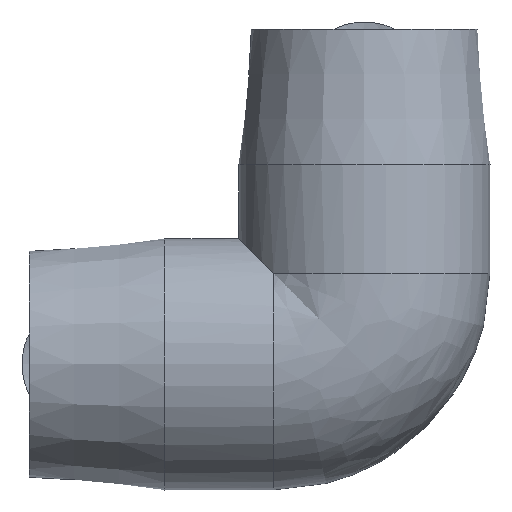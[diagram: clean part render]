
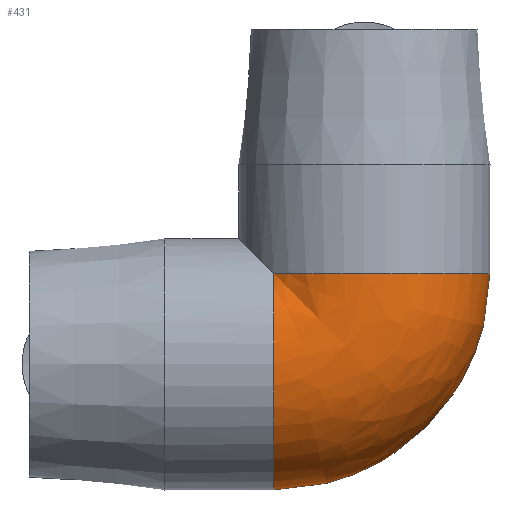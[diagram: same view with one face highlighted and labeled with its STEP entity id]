
A CAD part, front view. The second image highlights one B-rep face of the part: STEP entity #431.
In plain terms, the highlighted free-form (B-spline) face has degree [2, 2] with [9, 3] control points.
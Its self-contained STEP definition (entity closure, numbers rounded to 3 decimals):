
#33=(
BOUNDED_SURFACE()
B_SPLINE_SURFACE(2,2,((#724,#725,#726),(#727,#728,#729),(#730,#731,#732),
(#733,#734,#735),(#736,#737,#738),(#739,#740,#741),(#742,#743,#744),(#745,
#746,#747),(#748,#749,#750)),.UNSPECIFIED.,.F.,.F.,.F.)
B_SPLINE_SURFACE_WITH_KNOTS((3,2,2,2,3),(3,3),(-2.378,-1.189,
0.,1.189,2.378),(0.,1.571),
 .UNSPECIFIED.)
GEOMETRIC_REPRESENTATION_ITEM()
RATIONAL_B_SPLINE_SURFACE(((1.,0.707,1.),(0.828,
0.586,0.828),(1.,0.707,1.),(0.828,
0.586,0.828),(1.,0.707,1.),(0.828,
0.586,0.828),(1.,0.707,1.),(0.828,
0.586,0.828),(1.,0.707,1.)))
REPRESENTATION_ITEM('')
SURFACE()
);
#92=FACE_OUTER_BOUND('',#126,.T.);
#126=EDGE_LOOP('',(#307,#308,#309,#310));
#168=CIRCLE('',#494,18.);
#169=CIRCLE('',#495,18.);
#170=CIRCLE('',#496,18.);
#171=CIRCLE('',#497,18.);
#203=VERTEX_POINT('',#751);
#204=VERTEX_POINT('',#752);
#205=VERTEX_POINT('',#754);
#206=VERTEX_POINT('',#756);
#243=EDGE_CURVE('',#203,#204,#168,.T.);
#244=EDGE_CURVE('',#204,#205,#169,.T.);
#245=EDGE_CURVE('',#205,#206,#170,.T.);
#246=EDGE_CURVE('',#206,#203,#171,.T.);
#307=ORIENTED_EDGE('',*,*,#243,.T.);
#308=ORIENTED_EDGE('',*,*,#244,.T.);
#309=ORIENTED_EDGE('',*,*,#245,.T.);
#310=ORIENTED_EDGE('',*,*,#246,.T.);
#431=ADVANCED_FACE('',(#92),#33,.F.);
#494=AXIS2_PLACEMENT_3D('',#753,#579,#580);
#495=AXIS2_PLACEMENT_3D('',#755,#581,#582);
#496=AXIS2_PLACEMENT_3D('',#757,#583,#584);
#497=AXIS2_PLACEMENT_3D('',#758,#585,#586);
#579=DIRECTION('center_axis',(0.,0.,
-1.));
#580=DIRECTION('ref_axis',(-1.,0.,0.));
#581=DIRECTION('center_axis',(0.,0.,
-1.));
#582=DIRECTION('ref_axis',(-1.,0.,0.));
#583=DIRECTION('center_axis',(1.,0.,0.));
#584=DIRECTION('ref_axis',(0.,0.,-1.));
#585=DIRECTION('center_axis',(1.,0.,0.));
#586=DIRECTION('ref_axis',(0.,0.,-1.));
#724=CARTESIAN_POINT('Ctrl Pts',(-13.,12.45,13.));
#725=CARTESIAN_POINT('Ctrl Pts',(-13.,12.45,13.));
#726=CARTESIAN_POINT('Ctrl Pts',(-13.,12.45,13.));
#727=CARTESIAN_POINT('Ctrl Pts',(-13.,21.238,4.584));
#728=CARTESIAN_POINT('Ctrl Pts',(-4.584,21.238,4.584));
#729=CARTESIAN_POINT('Ctrl Pts',(-4.584,21.238,13.));
#730=CARTESIAN_POINT('Ctrl Pts',(-13.,16.703,-6.708));
#731=CARTESIAN_POINT('Ctrl Pts',(6.708,16.703,-6.708));
#732=CARTESIAN_POINT('Ctrl Pts',(6.708,16.703,13.));
#733=CARTESIAN_POINT('Ctrl Pts',(-13.,12.168,-18.));
#734=CARTESIAN_POINT('Ctrl Pts',(18.,12.168,-18.));
#735=CARTESIAN_POINT('Ctrl Pts',(18.,12.168,13.));
#736=CARTESIAN_POINT('Ctrl Pts',(-13.,0.,-18.));
#737=CARTESIAN_POINT('Ctrl Pts',(18.,0.,-18.));
#738=CARTESIAN_POINT('Ctrl Pts',(18.,0.,13.));
#739=CARTESIAN_POINT('Ctrl Pts',(-13.,-12.168,-18.));
#740=CARTESIAN_POINT('Ctrl Pts',(18.,-12.168,-18.));
#741=CARTESIAN_POINT('Ctrl Pts',(18.,-12.168,13.));
#742=CARTESIAN_POINT('Ctrl Pts',(-13.,-16.703,-6.708));
#743=CARTESIAN_POINT('Ctrl Pts',(6.708,-16.703,-6.708));
#744=CARTESIAN_POINT('Ctrl Pts',(6.708,-16.703,13.));
#745=CARTESIAN_POINT('Ctrl Pts',(-13.,-21.238,4.584));
#746=CARTESIAN_POINT('Ctrl Pts',(-4.584,-21.238,4.584));
#747=CARTESIAN_POINT('Ctrl Pts',(-4.584,-21.238,13.));
#748=CARTESIAN_POINT('Ctrl Pts',(-13.,-12.45,13.));
#749=CARTESIAN_POINT('Ctrl Pts',(-13.,-12.45,13.));
#750=CARTESIAN_POINT('Ctrl Pts',(-13.,-12.45,13.));
#751=CARTESIAN_POINT('',(-13.,12.45,13.));
#752=CARTESIAN_POINT('',(0.,-18.,13.));
#753=CARTESIAN_POINT('Origin',(0.,0.,
13.));
#754=CARTESIAN_POINT('',(-13.,-12.45,13.));
#755=CARTESIAN_POINT('Origin',(0.,0.,
13.));
#756=CARTESIAN_POINT('',(-13.,-18.,0.));
#757=CARTESIAN_POINT('Origin',(-13.,0.,0.));
#758=CARTESIAN_POINT('Origin',(-13.,0.,0.));
